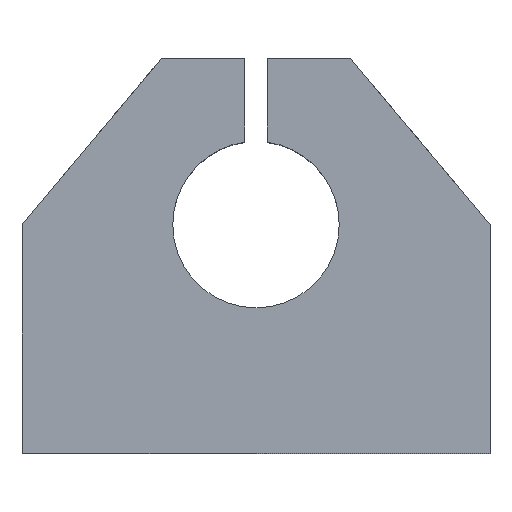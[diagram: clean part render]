
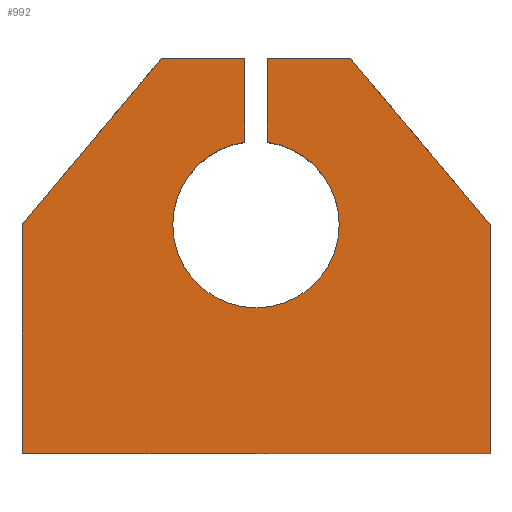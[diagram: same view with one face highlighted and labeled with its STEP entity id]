
A CAD part, top view. The second image highlights one B-rep face of the part: STEP entity #992.
In plain terms, the highlighted planar face has unit normal (0, 0, 1).
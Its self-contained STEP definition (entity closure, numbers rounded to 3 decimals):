
#17 = ORIENTED_EDGE ( 'NONE', *, *, #36, .T. ) ;
#36 = EDGE_CURVE ( 'NONE', #683, #115, #1035, .T. ) ;
#40 = AXIS2_PLACEMENT_3D ( 'NONE', #676, #975, #350 ) ;
#41 = DIRECTION ( 'NONE',  ( 0., 0., 1. ) ) ;
#47 = EDGE_CURVE ( 'NONE', #73, #675, #1008, .T. ) ;
#53 = DIRECTION ( 'NONE',  ( 1., 0., 0. ) ) ;
#54 = VERTEX_POINT ( 'NONE', #647 ) ;
#73 = VERTEX_POINT ( 'NONE', #475 ) ;
#87 = CARTESIAN_POINT ( 'NONE',  ( -1.075, 19., 10. ) ) ;
#88 = LINE ( 'NONE', #108, #1104 ) ;
#108 = CARTESIAN_POINT ( 'NONE',  ( -1.075, 19., 10. ) ) ;
#115 = VERTEX_POINT ( 'NONE', #297 ) ;
#124 = ORIENTED_EDGE ( 'NONE', *, *, #339, .T. ) ;
#144 = ORIENTED_EDGE ( 'NONE', *, *, #688, .T. ) ;
#148 = CARTESIAN_POINT ( 'NONE',  ( 1.075, 19., 10. ) ) ;
#158 = CARTESIAN_POINT ( 'NONE',  ( 0., 3., 10. ) ) ;
#169 = VECTOR ( 'NONE', #426, 1000. ) ;
#191 = CARTESIAN_POINT ( 'NONE',  ( -22.5, 19., 10. ) ) ;
#205 = VECTOR ( 'NONE', #421, 1000. ) ;
#230 = LINE ( 'NONE', #246, #902 ) ;
#246 = CARTESIAN_POINT ( 'NONE',  ( -14.681, 12.319, 10. ) ) ;
#253 = CARTESIAN_POINT ( 'NONE',  ( 1.075, 10.927, 10. ) ) ;
#258 = LINE ( 'NONE', #1069, #205 ) ;
#270 = VECTOR ( 'NONE', #868, 1000. ) ;
#271 = DIRECTION ( 'NONE',  ( -0.643, 0.766, 0. ) ) ;
#297 = CARTESIAN_POINT ( 'NONE',  ( 1.075, 19., 10. ) ) ;
#327 = LINE ( 'NONE', #508, #270 ) ;
#339 = EDGE_CURVE ( 'NONE', #795, #683, #1086, .T. ) ;
#343 = DIRECTION ( 'NONE',  ( 0., 0., 1. ) ) ;
#348 = ORIENTED_EDGE ( 'NONE', *, *, #799, .F. ) ;
#350 = DIRECTION ( 'NONE',  ( 1., 0., 0. ) ) ;
#359 = CARTESIAN_POINT ( 'NONE',  ( 14.681, 12.319, 10. ) ) ;
#360 = ORIENTED_EDGE ( 'NONE', *, *, #862, .F. ) ;
#361 = DIRECTION ( 'NONE',  ( 1., 0., 0. ) ) ;
#365 = CIRCLE ( 'NONE', #1187, 8. ) ;
#398 = ORIENTED_EDGE ( 'NONE', *, *, #656, .F. ) ;
#414 = VECTOR ( 'NONE', #271, 1000. ) ;
#415 = ORIENTED_EDGE ( 'NONE', *, *, #752, .F. ) ;
#416 = CARTESIAN_POINT ( 'NONE',  ( -9.074, 19., 10. ) ) ;
#421 = DIRECTION ( 'NONE',  ( -1., 0., 0. ) ) ;
#426 = DIRECTION ( 'NONE',  ( 0., 1., 0. ) ) ;
#427 = ORIENTED_EDGE ( 'NONE', *, *, #448, .T. ) ;
#428 = VERTEX_POINT ( 'NONE', #1052 ) ;
#446 = VERTEX_POINT ( 'NONE', #856 ) ;
#448 = EDGE_CURVE ( 'NONE', #675, #967, #327, .T. ) ;
#475 = CARTESIAN_POINT ( 'NONE',  ( -22.5, 3., 10. ) ) ;
#508 = CARTESIAN_POINT ( 'NONE',  ( -22.5, -19., 10. ) ) ;
#513 = ORIENTED_EDGE ( 'NONE', *, *, #779, .T. ) ;
#518 = DIRECTION ( 'NONE',  ( 1., 0., 0. ) ) ;
#520 = ORIENTED_EDGE ( 'NONE', *, *, #47, .T. ) ;
#527 = EDGE_LOOP ( 'NONE', ( #17, #653, #415, #348, #398, #360, #513, #144, #520, #427, #789, #124 ) ) ;
#535 = LINE ( 'NONE', #148, #760 ) ;
#547 = DIRECTION ( 'NONE',  ( 0., -1., 0. ) ) ;
#560 = VECTOR ( 'NONE', #547, 1000. ) ;
#647 = CARTESIAN_POINT ( 'NONE',  ( -8., 3., 10. ) ) ;
#653 = ORIENTED_EDGE ( 'NONE', *, *, #1057, .T. ) ;
#656 = EDGE_CURVE ( 'NONE', #428, #54, #836, .T. ) ;
#668 = AXIS2_PLACEMENT_3D ( 'NONE', #158, #41, #53 ) ;
#671 = VERTEX_POINT ( 'NONE', #416 ) ;
#675 = VERTEX_POINT ( 'NONE', #956 ) ;
#676 = CARTESIAN_POINT ( 'NONE',  ( 0., 3., 10. ) ) ;
#682 = DIRECTION ( 'NONE',  ( -0.643, -0.766, 0. ) ) ;
#683 = VERTEX_POINT ( 'NONE', #1143 ) ;
#688 = EDGE_CURVE ( 'NONE', #671, #73, #230, .T. ) ;
#698 = EDGE_CURVE ( 'NONE', #967, #795, #851, .T. ) ;
#705 = FACE_OUTER_BOUND ( 'NONE', #527, .T. ) ;
#752 = EDGE_CURVE ( 'NONE', #446, #803, #913, .T. ) ;
#754 = VECTOR ( 'NONE', #1041, 1000. ) ;
#760 = VECTOR ( 'NONE', #786, 1000. ) ;
#779 = EDGE_CURVE ( 'NONE', #1171, #671, #258, .T. ) ;
#786 = DIRECTION ( 'NONE',  ( 0., -1., 0. ) ) ;
#789 = ORIENTED_EDGE ( 'NONE', *, *, #698, .T. ) ;
#795 = VERTEX_POINT ( 'NONE', #966 ) ;
#799 = EDGE_CURVE ( 'NONE', #54, #446, #365, .T. ) ;
#803 = VERTEX_POINT ( 'NONE', #253 ) ;
#806 = DIRECTION ( 'NONE',  ( 0., -1., 0. ) ) ;
#836 = CIRCLE ( 'NONE', #668, 8. ) ;
#851 = LINE ( 'NONE', #1170, #169 ) ;
#856 = CARTESIAN_POINT ( 'NONE',  ( 8., 3., 10. ) ) ;
#862 = EDGE_CURVE ( 'NONE', #1171, #428, #88, .T. ) ;
#863 = CARTESIAN_POINT ( 'NONE',  ( 0., 3., 10. ) ) ;
#868 = DIRECTION ( 'NONE',  ( 1., 0., 0. ) ) ;
#889 = PLANE ( 'NONE',  #933 ) ;
#902 = VECTOR ( 'NONE', #682, 1000. ) ;
#913 = CIRCLE ( 'NONE', #40, 8. ) ;
#933 = AXIS2_PLACEMENT_3D ( 'NONE', #988, #1182, #361 ) ;
#934 = CARTESIAN_POINT ( 'NONE',  ( -22.5, 19., 10. ) ) ;
#956 = CARTESIAN_POINT ( 'NONE',  ( -22.5, -19., 10. ) ) ;
#966 = CARTESIAN_POINT ( 'NONE',  ( 22.5, 3., 10. ) ) ;
#967 = VERTEX_POINT ( 'NONE', #972 ) ;
#972 = CARTESIAN_POINT ( 'NONE',  ( 22.5, -19., 10. ) ) ;
#975 = DIRECTION ( 'NONE',  ( 0., 0., 1. ) ) ;
#988 = CARTESIAN_POINT ( 'NONE',  ( 0., 0., 10. ) ) ;
#992 = ADVANCED_FACE ( 'NONE', ( #705 ), #889, .T. ) ;
#1008 = LINE ( 'NONE', #191, #560 ) ;
#1035 = LINE ( 'NONE', #934, #754 ) ;
#1041 = DIRECTION ( 'NONE',  ( -1., 0., 0. ) ) ;
#1052 = CARTESIAN_POINT ( 'NONE',  ( -1.075, 10.927, 10. ) ) ;
#1057 = EDGE_CURVE ( 'NONE', #115, #803, #535, .T. ) ;
#1069 = CARTESIAN_POINT ( 'NONE',  ( -22.5, 19., 10. ) ) ;
#1086 = LINE ( 'NONE', #359, #414 ) ;
#1104 = VECTOR ( 'NONE', #806, 1000. ) ;
#1143 = CARTESIAN_POINT ( 'NONE',  ( 9.074, 19., 10. ) ) ;
#1170 = CARTESIAN_POINT ( 'NONE',  ( 22.5, 19., 10. ) ) ;
#1171 = VERTEX_POINT ( 'NONE', #87 ) ;
#1182 = DIRECTION ( 'NONE',  ( 0., 0., 1. ) ) ;
#1187 = AXIS2_PLACEMENT_3D ( 'NONE', #863, #343, #518 ) ;
